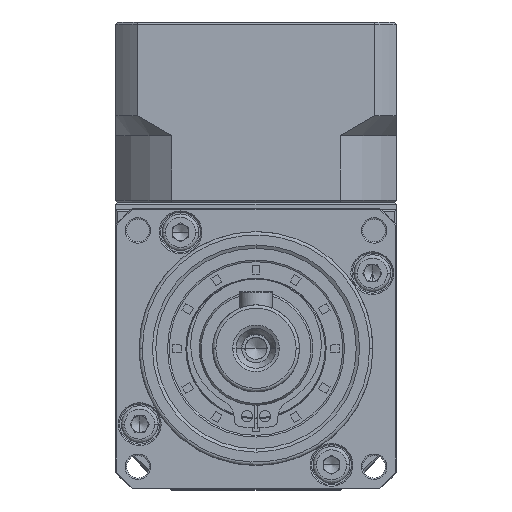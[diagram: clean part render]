
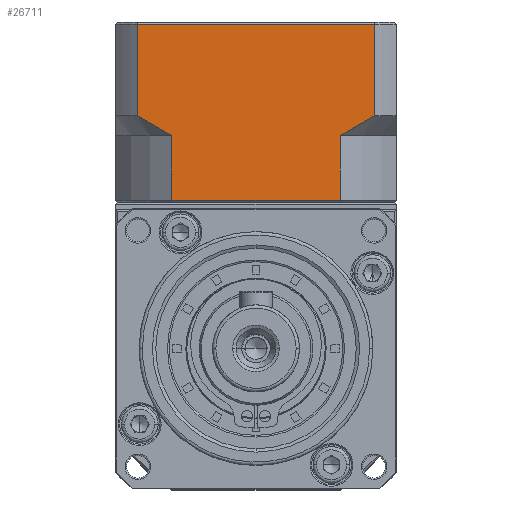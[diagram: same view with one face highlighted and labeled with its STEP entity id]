
A CAD part, top view. The second image highlights one B-rep face of the part: STEP entity #26711.
In plain terms, the highlighted planar face has unit normal (0, 0, 1).
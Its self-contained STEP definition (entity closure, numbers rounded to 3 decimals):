
#1948 = CARTESIAN_POINT ( 'NONE',  ( -4.53, 25.22, 137.037 ) ) ;
#4849 = DIRECTION ( 'NONE',  ( -1., 0., 0. ) ) ;
#6868 = EDGE_CURVE ( 'NONE', #20681, #143567, #54409, .T. ) ;
#10861 = ORIENTED_EDGE ( 'NONE', *, *, #127613, .T. ) ;
#13491 = DIRECTION ( 'NONE',  ( 0., 1., 0. ) ) ;
#14723 = DIRECTION ( 'NONE',  ( 0., 0., 1. ) ) ;
#15031 = VERTEX_POINT ( 'NONE', #148285 ) ;
#15513 = VECTOR ( 'NONE', #136642, 1000. ) ;
#16993 = DIRECTION ( 'NONE',  ( 0., -1., 0. ) ) ;
#20477 = ORIENTED_EDGE ( 'NONE', *, *, #45419, .T. ) ;
#20681 = VERTEX_POINT ( 'NONE', #140541 ) ;
#21469 = VERTEX_POINT ( 'NONE', #30842 ) ;
#21669 = CARTESIAN_POINT ( 'NONE',  ( -7.901, 36.129, 137.037 ) ) ;
#22153 = CARTESIAN_POINT ( 'NONE',  ( -4.53, 38.22, 137.037 ) ) ;
#24013 = ORIENTED_EDGE ( 'NONE', *, *, #81967, .F. ) ;
#26711 = ADVANCED_FACE ( 'NONE', ( #42159 ), #146588, .T. ) ;
#27793 = CARTESIAN_POINT ( 'NONE',  ( -40.041, 38.22, 137.037 ) ) ;
#30655 = EDGE_CURVE ( 'NONE', #93344, #89056, #140638, .T. ) ;
#30842 = CARTESIAN_POINT ( 'NONE',  ( -4.53, 51.92, 137.037 ) ) ;
#31261 = CARTESIAN_POINT ( 'NONE',  ( -38.373, 37.143, 137.037 ) ) ;
#39622 = DIRECTION ( 'NONE',  ( 0., -1., 0. ) ) ;
#42159 = FACE_OUTER_BOUND ( 'NONE', #46040, .T. ) ;
#42817 = CARTESIAN_POINT ( 'NONE',  ( -36.67, 36.129, 137.037 ) ) ;
#44253 = DIRECTION ( 'NONE',  ( -1., 0., 0. ) ) ;
#45419 = EDGE_CURVE ( 'NONE', #116382, #20681, #143348, .T. ) ;
#46040 = EDGE_LOOP ( 'NONE', ( #146057, #20477, #134877, #24013, #50983, #96628, #148376, #10861 ) ) ;
#50391 = CARTESIAN_POINT ( 'NONE',  ( -1.285, 51.92, 137.037 ) ) ;
#50983 = ORIENTED_EDGE ( 'NONE', *, *, #30655, .F. ) ;
#54409 = LINE ( 'NONE', #63656, #115151 ) ;
#57140 = LINE ( 'NONE', #1948, #83924 ) ;
#60875 = VERTEX_POINT ( 'NONE', #103143 ) ;
#63656 = CARTESIAN_POINT ( 'NONE',  ( -34.905, 25.22, 137.037 ) ) ;
#65775 = LINE ( 'NONE', #85444, #92581 ) ;
#67682 = CARTESIAN_POINT ( 'NONE',  ( -9.666, 35.22, 137.037 ) ) ;
#77112 = B_SPLINE_CURVE_WITH_KNOTS ( 'NONE', 3,
 ( #67682, #21669, #90677, #22153 ),
 .UNSPECIFIED., .F., .F.,
 ( 4, 4 ),
 ( 0., 0.006 ),
 .UNSPECIFIED. ) ;
#81967 = EDGE_CURVE ( 'NONE', #89056, #143567, #116761, .T. ) ;
#83186 = CARTESIAN_POINT ( 'NONE',  ( -1.285, 25.22, 137.037 ) ) ;
#83924 = VECTOR ( 'NONE', #13491, 1000. ) ;
#85444 = CARTESIAN_POINT ( 'NONE',  ( -40.041, 25.22, 137.037 ) ) ;
#88063 = EDGE_CURVE ( 'NONE', #60875, #21469, #57140, .T. ) ;
#88928 = VECTOR ( 'NONE', #4849, 1000. ) ;
#89056 = VERTEX_POINT ( 'NONE', #102525 ) ;
#90677 = CARTESIAN_POINT ( 'NONE',  ( -6.197, 37.143, 137.037 ) ) ;
#92581 = VECTOR ( 'NONE', #16993, 1000. ) ;
#92720 = EDGE_CURVE ( 'NONE', #93344, #60875, #77112, .T. ) ;
#93344 = VERTEX_POINT ( 'NONE', #146848 ) ;
#94682 = DIRECTION ( 'NONE',  ( -1., 0., 0. ) ) ;
#96628 = ORIENTED_EDGE ( 'NONE', *, *, #92720, .T. ) ;
#97133 = VECTOR ( 'NONE', #44253, 1000. ) ;
#99937 = AXIS2_PLACEMENT_3D ( 'NONE', #83186, #14723, #94682 ) ;
#101224 = CARTESIAN_POINT ( 'NONE',  ( -1.285, 25.52, 137.037 ) ) ;
#102525 = CARTESIAN_POINT ( 'NONE',  ( -9.666, 25.52, 137.037 ) ) ;
#103143 = CARTESIAN_POINT ( 'NONE',  ( -4.53, 38.22, 137.037 ) ) ;
#103979 = CARTESIAN_POINT ( 'NONE',  ( -34.905, 25.52, 137.037 ) ) ;
#114143 = CARTESIAN_POINT ( 'NONE',  ( -9.666, 5.055, 137.037 ) ) ;
#115151 = VECTOR ( 'NONE', #39622, 1000. ) ;
#116382 = VERTEX_POINT ( 'NONE', #137969 ) ;
#116696 = EDGE_CURVE ( 'NONE', #15031, #116382, #65775, .T. ) ;
#116761 = LINE ( 'NONE', #101224, #97133 ) ;
#119288 = LINE ( 'NONE', #50391, #88928 ) ;
#122762 = CARTESIAN_POINT ( 'NONE',  ( -34.905, 35.22, 137.037 ) ) ;
#127613 = EDGE_CURVE ( 'NONE', #21469, #15031, #119288, .T. ) ;
#134877 = ORIENTED_EDGE ( 'NONE', *, *, #6868, .T. ) ;
#136642 = DIRECTION ( 'NONE',  ( 0., -1., 0. ) ) ;
#137969 = CARTESIAN_POINT ( 'NONE',  ( -40.041, 38.22, 137.037 ) ) ;
#140541 = CARTESIAN_POINT ( 'NONE',  ( -34.905, 35.22, 137.037 ) ) ;
#140638 = LINE ( 'NONE', #114143, #15513 ) ;
#143348 = B_SPLINE_CURVE_WITH_KNOTS ( 'NONE', 3,
 ( #27793, #31261, #42817, #122762 ),
 .UNSPECIFIED., .F., .F.,
 ( 4, 4 ),
 ( 0., 0.006 ),
 .UNSPECIFIED. ) ;
#143567 = VERTEX_POINT ( 'NONE', #103979 ) ;
#146057 = ORIENTED_EDGE ( 'NONE', *, *, #116696, .T. ) ;
#146588 = PLANE ( 'NONE',  #99937 ) ;
#146848 = CARTESIAN_POINT ( 'NONE',  ( -9.666, 35.22, 137.037 ) ) ;
#148285 = CARTESIAN_POINT ( 'NONE',  ( -40.041, 51.92, 137.037 ) ) ;
#148376 = ORIENTED_EDGE ( 'NONE', *, *, #88063, .T. ) ;
